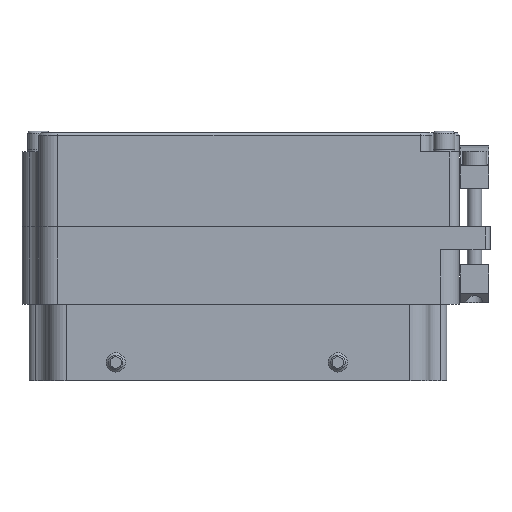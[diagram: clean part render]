
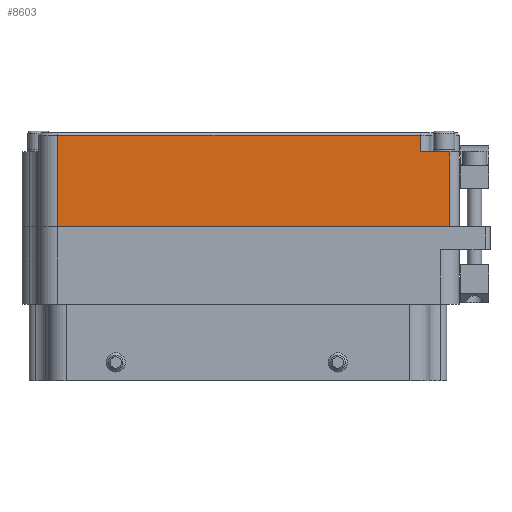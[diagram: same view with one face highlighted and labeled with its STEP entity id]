
A CAD part, left-side view. The second image highlights one B-rep face of the part: STEP entity #8603.
In plain terms, the highlighted planar face has unit normal (-1, 0, 0).
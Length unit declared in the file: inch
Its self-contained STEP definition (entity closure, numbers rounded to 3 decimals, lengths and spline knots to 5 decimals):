
#7685=CARTESIAN_POINT('',(-1.09375,-0.25,2.21875));
#7686=VERTEX_POINT('',#7685);
#7727=CARTESIAN_POINT('',(-1.09375,-5.0045,2.21875));
#7728=VERTEX_POINT('',#7727);
#7744=CARTESIAN_POINT('',(-1.09375,-0.25,2.21875));
#7745=DIRECTION('',(0.0,-1.0,0.0));
#7746=VECTOR('',#7745,4.7545);
#7747=LINE('',#7744,#7746);
#7748=EDGE_CURVE('',#7686,#7728,#7747,.T.);
#8545=CARTESIAN_POINT('',(-1.09375,-5.0045,2.));
#8546=VERTEX_POINT('',#8545);
#8547=CARTESIAN_POINT('',(-1.09375,-5.0045,2.21875));
#8548=DIRECTION('',(0.0,0.0,-1.0));
#8549=VECTOR('',#8548,0.21875);
#8550=LINE('',#8547,#8549);
#8551=EDGE_CURVE('',#7728,#8546,#8550,.T.);
#8564=CARTESIAN_POINT('',(-1.09375,0.,2.25));
#8565=DIRECTION('',(-1.0,0.0,0.0));
#8566=DIRECTION('',(0.0,0.0,1.0));
#8567=AXIS2_PLACEMENT_3D('',#8564,#8565,#8566);
#8568=PLANE('',#8567);
#8569=ORIENTED_EDGE('',*,*,#7748,.F.);
#8570=CARTESIAN_POINT('',(-1.09375,-0.25,1.02));
#8571=VERTEX_POINT('',#8570);
#8572=CARTESIAN_POINT('',(-1.09375,-0.25,1.02));
#8573=DIRECTION('',(0.0,0.0,1.0));
#8574=VECTOR('',#8573,1.19875);
#8575=LINE('',#8572,#8574);
#8576=EDGE_CURVE('',#8571,#7686,#8575,.T.);
#8577=ORIENTED_EDGE('',*,*,#8576,.F.);
#8578=CARTESIAN_POINT('',(-1.09375,-5.393,1.02));
#8579=VERTEX_POINT('',#8578);
#8580=CARTESIAN_POINT('',(-1.09375,-0.25,1.02));
#8581=DIRECTION('',(0.0,-1.0,0.0));
#8582=VECTOR('',#8581,5.143);
#8583=LINE('',#8580,#8582);
#8584=EDGE_CURVE('',#8571,#8579,#8583,.T.);
#8585=ORIENTED_EDGE('',*,*,#8584,.T.);
#8586=CARTESIAN_POINT('',(-1.09375,-5.393,2.));
#8587=VERTEX_POINT('',#8586);
#8588=CARTESIAN_POINT('',(-1.09375,-5.393,2.));
#8589=DIRECTION('',(0.0,0.0,-1.0));
#8590=VECTOR('',#8589,0.98);
#8591=LINE('',#8588,#8590);
#8592=EDGE_CURVE('',#8587,#8579,#8591,.T.);
#8593=ORIENTED_EDGE('',*,*,#8592,.F.);
#8594=CARTESIAN_POINT('',(-1.09375,-5.393,2.));
#8595=DIRECTION('',(0.0,1.0,0.0));
#8596=VECTOR('',#8595,0.3885);
#8597=LINE('',#8594,#8596);
#8598=EDGE_CURVE('',#8587,#8546,#8597,.T.);
#8599=ORIENTED_EDGE('',*,*,#8598,.T.);
#8600=ORIENTED_EDGE('',*,*,#8551,.F.);
#8601=EDGE_LOOP('',(#8569,#8577,#8585,#8593,#8599,#8600));
#8602=FACE_OUTER_BOUND('',#8601,.T.);
#8603=ADVANCED_FACE('',(#8602),#8568,.T.);
